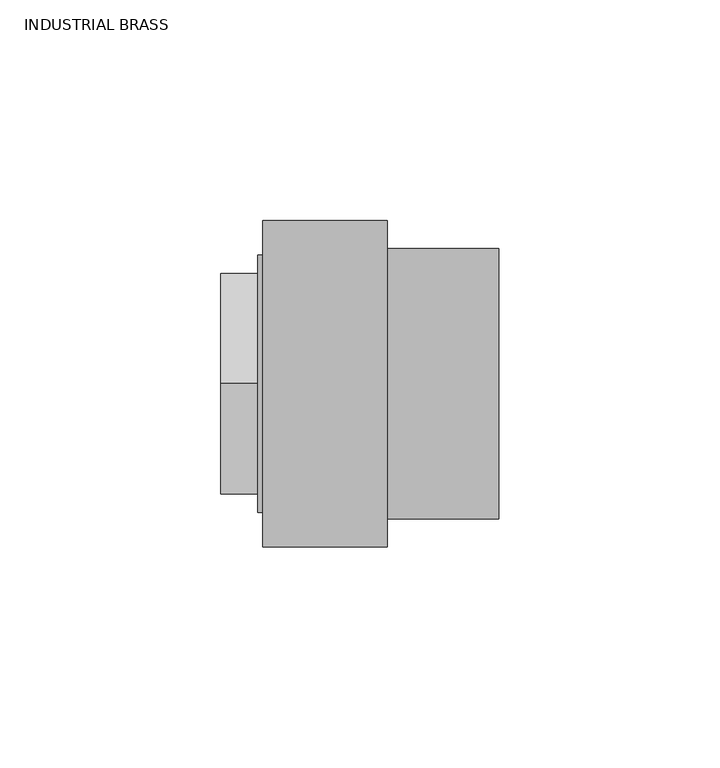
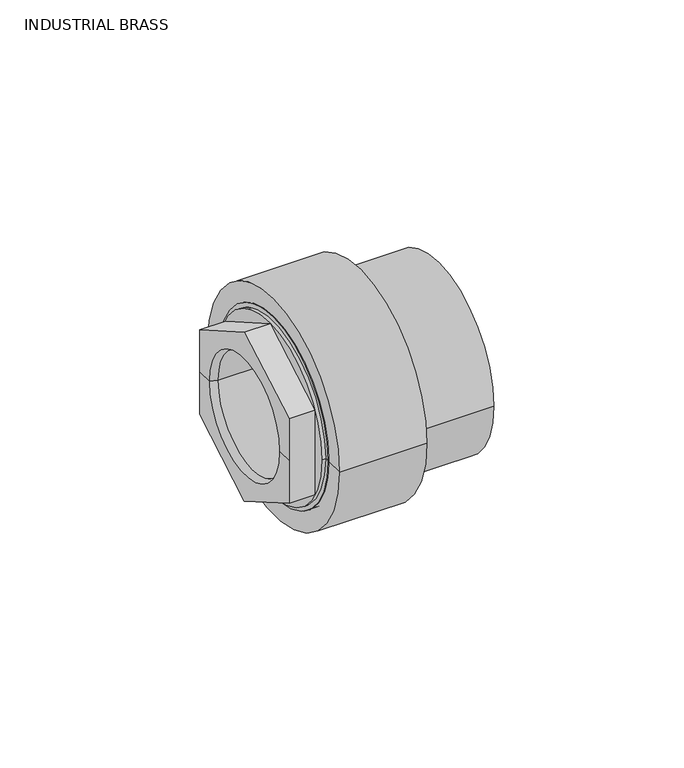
"""IFC4 building model written with IfcOpenShell, lengths in millimetres: valve geometry, Aquatherm - Transition Piece - F HEX : INDUSTRIAL BRASS."""

import ifcopenshell
import ifcopenshell.guid

model = None  # the IFC model being written
_history = None  # IfcOwnerHistory: only IFC2X3 demands one
_inside = {}  # id of a spatial element -> (the spatial element, [elements in it])
_under = {}  # id of a project, library or spatial element -> (it, [spatial elements below it])
_declared = {}  # id of a project -> (the project, [libraries it declares])
_typed = {}  # id of a type object -> (the type object, [elements of that type])
_made_of = {}  # id of a material, layer set ... -> (it, [elements and type objects made of it])


def new_model(schema):
    """Start an empty IFC model of exactly this schema.

    Asked for "IFC4X3", IfcOpenShell would pick the latest addendum, in which some entities
    have other attributes; the version numbers below select the first issue.
    IFC2X3 requires an IfcOwnerHistory on every rooted entity: one is made here for all.
    """
    global model, _history
    if schema == "IFC4X3":
        model = ifcopenshell.file(schema_version=(4, 3, 0, 0))
    else:
        model = ifcopenshell.file(schema=schema)
    _inside.clear()
    _under.clear()
    _declared.clear()
    _typed.clear()
    _made_of.clear()
    _history = None
    if model.schema == "IFC2X3":
        org = make("IfcOrganization", Name="unknown")
        user = make(
            "IfcPersonAndOrganization",
            ThePerson=make("IfcPerson", FamilyName="unknown"),
            TheOrganization=org,
        )
        app = make(
            "IfcApplication",
            ApplicationDeveloper=org,
            Version="unknown",
            ApplicationFullName="unknown",
            ApplicationIdentifier="unknown",
        )
        _history = make(
            "IfcOwnerHistory",
            OwningUser=user,
            OwningApplication=app,
            ChangeAction="ADDED",
            CreationDate=0,
        )
    return model


def make(cls, **values):
    """One entity of the class cls with the attributes given. An attribute that is None is left unset."""
    return model.create_entity(
        cls, **{name: value for name, value in values.items() if value is not None}
    )


def rooted(cls, **values):
    """An entity with a GlobalId (a new one), such as an element, a storey or a relation."""
    return make(cls, GlobalId=ifcopenshell.guid.new(), OwnerHistory=_history, **values)


def si_unit(unit_type, name, prefix=None):
    """IfcSIUnit, for example si_unit("LENGTHUNIT", "METRE", prefix="MILLI")."""
    return make("IfcSIUnit", UnitType=unit_type, Prefix=prefix, Name=name)


def assignment(units):
    """IfcUnitAssignment: the units of a project."""
    return None if units is None else make("IfcUnitAssignment", Units=units)


def point(xyz):
    """IfcCartesianPoint."""
    return None if xyz is None else make("IfcCartesianPoint", Coordinates=xyz)


def direction(xyz):
    """IfcDirection."""
    return None if xyz is None else make("IfcDirection", DirectionRatios=xyz)


def frame(location, z_axis=None, x_axis=None):
    """IfcAxis2Placement3D, a coordinate frame: its origin and axes. An axis left out is left unset."""
    return make(
        "IfcAxis2Placement3D",
        Location=point(location),
        Axis=direction(z_axis),
        RefDirection=direction(x_axis),
    )


def origin():
    """The frame at (0, 0, 0) with its axes left unset."""
    return frame((0.0, 0.0, 0.0))


def place(relative_to, where):
    """IfcLocalPlacement: puts the frame where relative to a parent placement (None: the world)."""
    return make(
        "IfcLocalPlacement", PlacementRelTo=relative_to, RelativePlacement=where
    )


def context(
    kind, dimensions, precision=None, world=None, true_north=None, identifier=None
):
    """IfcGeometricRepresentationContext, for example the 3D "Model" context."""
    return make(
        "IfcGeometricRepresentationContext",
        ContextIdentifier=identifier,
        ContextType=kind,
        CoordinateSpaceDimension=dimensions,
        Precision=precision,
        WorldCoordinateSystem=world,
        TrueNorth=true_north,
    )


def project(units=None, contexts=None):
    """IfcProject with its units and contexts."""
    return rooted(
        "IfcProject",
        Name="project",
        RepresentationContexts=contexts,
        UnitsInContext=assignment(units),
    )


def spatial(cls, under=None, at=None, **own):
    """A site, building, storey or space (cls), placed at a placement, below another one or the project."""
    s = rooted(cls, ObjectPlacement=at, **own)
    if under is not None:
        _under.setdefault(under.id(), (under, []))[1].append(s)
    return s


def polyline(points):
    """IfcPolyline through the points."""
    return make("IfcPolyline", Points=[point(p) for p in points])


def circle_curve(where, radius):
    """IfcCircle in the frame where."""
    return make("IfcCircle", Position=where, Radius=radius)


def shape(context_of_items, identifier, shape_type, items):
    """IfcShapeRepresentation: the items that make up one representation, for example the "Body"."""
    return make(
        "IfcShapeRepresentation",
        ContextOfItems=context_of_items,
        RepresentationIdentifier=identifier,
        RepresentationType=shape_type,
        Items=items,
    )


def source(mapping_origin, context_of_items, identifier, shape_type, items):
    """IfcRepresentationMap: a shape defined once, which mapped items show again and again."""
    return make(
        "IfcRepresentationMap",
        MappingOrigin=mapping_origin,
        MappedRepresentation=shape(context_of_items, identifier, shape_type, items),
    )


def transform(
    local_origin,
    x_axis=None,
    y_axis=None,
    z_axis=None,
    scale=None,
    scale2=None,
    scale3=None,
    uniform=True,
):
    """IfcCartesianTransformationOperator3D, or its non-uniform kind. x_axis, y_axis, z_axis: its Axis1, 2, 3."""
    if uniform:
        return make(
            "IfcCartesianTransformationOperator3D",
            Axis1=direction(x_axis),
            Axis2=direction(y_axis),
            LocalOrigin=point(local_origin),
            Scale=scale,
            Axis3=direction(z_axis),
        )
    return make(
        "IfcCartesianTransformationOperator3DnonUniform",
        Axis1=direction(x_axis),
        Axis2=direction(y_axis),
        LocalOrigin=point(local_origin),
        Scale=scale,
        Axis3=direction(z_axis),
        Scale2=scale2,
        Scale3=scale3,
    )


def mapped(mapping_source, mapping_target):
    """IfcMappedItem: shows the shape of a source again, moved by a transform."""
    return make(
        "IfcMappedItem", MappingSource=mapping_source, MappingTarget=mapping_target
    )


def made_of(thing, what):
    """Note that an element or type object is made of a material, layer set ...; save() writes the relation."""
    if what is not None:
        _made_of.setdefault(what.id(), (what, []))[1].append(thing)
    return thing


def element(
    cls,
    number,
    at=None,
    inside=None,
    cuts=None,
    type_object=None,
    material=None,
    context=None,
    identifier="Body",
    shape_type=None,
    held_by="IfcProductDefinitionShape",
    body=None,
    shapes=None,
    **own,
):
    """One element of the class cls, such as IfcWall. Its Tag is "e" and its number.

    at: its placement. inside: the storey or other place that contains it. cuts: it is an
    opening in that element (IfcRelVoidsElement). A single representation is given by context,
    identifier, shape_type and body (its items); several are given by shapes. held_by: the class
    of the entity that holds the representations. save() writes the other relations.
    """
    e = rooted(cls, Tag="e%d" % number, ObjectPlacement=at, **own)
    if body is not None:
        shapes = [shape(context, identifier, shape_type, body)]
    if shapes is not None:
        e.Representation = make(held_by, Representations=shapes)
    if inside is not None:
        _inside.setdefault(inside.id(), (inside, []))[1].append(e)
    if cuts is not None:
        rooted(
            "IfcRelVoidsElement", RelatingBuildingElement=cuts, RelatedOpeningElement=e
        )
    if type_object is not None:
        _typed.setdefault(type_object.id(), (type_object, []))[1].append(e)
    return made_of(e, material)


def aggregate(whole, parts):
    """IfcRelAggregates: a whole, such as a stair, and the parts it consists of."""
    return rooted("IfcRelAggregates", RelatingObject=whole, RelatedObjects=parts)


def save(model, path):
    """Write the relations noted so far, then the file.

    IfcRelAggregates (storeys below a building ...), IfcRelContainedInSpatialStructure (elements
    in a storey), IfcRelDefinesByType, IfcRelAssociatesMaterial and IfcRelDeclares: one each for
    every whole, place, type object, material and project.
    """
    for whole, parts in _under.values():
        aggregate(whole, parts)
    for where, things in _inside.values():
        rooted(
            "IfcRelContainedInSpatialStructure",
            RelatedElements=things,
            RelatingStructure=where,
        )
    for kind, things in _typed.values():
        rooted("IfcRelDefinesByType", RelatedObjects=things, RelatingType=kind)
    for what, things in _made_of.values():
        rooted("IfcRelAssociatesMaterial", RelatedObjects=things, RelatingMaterial=what)
    for by, libraries in _declared.values():
        rooted("IfcRelDeclares", RelatingContext=by, RelatedDefinitions=libraries)
    model.write(path)


def plane_surface(at):
    """IfcPlane: the flat surface through the origin of the frame at, square to its z axis."""
    return make("IfcPlane", Position=at)


def cylinder_surface(at, radius):
    """IfcCylindricalSurface: all points at the distance radius from the z axis of the frame at."""
    return make("IfcCylindricalSurface", Position=at, Radius=radius)


def revolved_surface(curve, axis_point, axis_direction):
    """IfcSurfaceOfRevolution: the curve turned about the line through axis_point along axis_direction."""
    return make(
        "IfcSurfaceOfRevolution",
        SweptCurve=make("IfcArbitraryOpenProfileDef", ProfileType="CURVE", Curve=curve),
        AxisPosition=make("IfcAxis1Placement", Location=point(axis_point), Axis=direction(axis_direction)),
    )


def advanced_brep(points, edges, surfaces, faces):
    """IfcAdvancedBrep: a solid bounded by faces that lie on surfaces and meet in shared edges.

    An edge is (start, end): straight between two places in points (the first is 0);
    or (start, end, curve); or (start, end, curve, False) where it runs against its curve.
    A face is (place in surfaces, loops), or (place, loops, False) where it looks against
    its surface's normal. A loop lists edges by number (the first is 1), with a minus sign
    where the edge is run from its end to its start. The first loop is the outer one.
    """
    corners = [point(p) for p in points]
    vertices = [make("IfcVertexPoint", VertexGeometry=c) for c in corners]
    made = []
    for start, end, *more in edges:
        made.append(
            make(
                "IfcEdgeCurve",
                EdgeStart=vertices[start],
                EdgeEnd=vertices[end],
                EdgeGeometry=more[0] if more else make("IfcPolyline", Points=[corners[start], corners[end]]),
                SameSense=more[1] if len(more) > 1 else True,
            )
        )
    hull = []
    for where, loops, *sense in faces:
        bounds = []
        for j, loop in enumerate(loops):
            ring = [make("IfcOrientedEdge", EdgeElement=made[abs(k) - 1], Orientation=k > 0) for k in loop]
            bounds.append(
                make(
                    "IfcFaceOuterBound" if j == 0 else "IfcFaceBound",
                    Bound=make("IfcEdgeLoop", EdgeList=ring),
                    Orientation=True,
                )
            )
        hull.append(make("IfcAdvancedFace", Bounds=bounds, FaceSurface=surfaces[where], SameSense=sense[0] if sense else True))
    return make("IfcAdvancedBrep", Outer=make("IfcClosedShell", CfsFaces=hull))


def industrial_brass_9a24e325(model_context):
    return source(origin(), model_context, "Body", "AdvancedBrep", [
        advanced_brep(
        [(8.73125, -19.05, 0.0), (8.73125, 19.05, 0.0), (-6.9453125, 19.05, 0.0), (-6.9453125, -19.05, 0.0), (8.73125, -19.84375, 0.0), (8.73125, 19.84375, 0.0), (11.90625, -19.84375, 0.0), (11.90625, 19.84375, 0.0), (11.90625, -15.875, 0.0), (11.90625, 15.875, 0.0), (15.08125, -15.875, 0.0), (15.08125, 15.875, 0.0), (15.08125, -30.607, 0.0), (15.08125, 30.607, 0.0), (0.0, -30.607, 0.0), (0.0, 30.607, 0.0), (-9.525, -19.84375, 0.0), (-9.525, 19.84375, 0.0), (-9.525, 25.019, 0.0), (-9.525, 25.019, -14.4447264), (-9.525, 0.0, -28.8894528), (-9.525, -25.019, -14.4447264), (-9.525, -25.019, 0.0), (-9.525, -25.019, 14.4447264), (-9.525, 0.0, 28.8894528), (-9.525, 25.019, 14.4447264), (0.0, -29.21, 0.0), (0.0, 29.21, 0.0), (-1.190625, -29.21, 0.0), (-1.190625, 29.21, 0.0), (-1.190625, 0.0, -28.8894528), (-1.190625, 25.019, -14.4447264), (-1.190625, 25.019, 14.4447264), (-1.190625, 0.0, 28.8894528), (-1.190625, -25.019, 14.4447264), (-1.190625, -25.019, -14.4447264)],
        [
            (0, 1, circle_curve(frame((8.73125, 0.0, 0.0), z_axis=(1.0, 0.0, 0.0), x_axis=(0.0, 1.0, 0.0)), 19.05)),
            (1, 2),
            (2, 3, circle_curve(frame((-6.9453125, 0.0, 0.0), z_axis=(-1.0, 0.0, 0.0), x_axis=(0.0, 1.0, 0.0)), 19.05)),
            (3, 0),
            (1, 0, circle_curve(frame((8.73125, 0.0, 0.0), z_axis=(1.0, 0.0, 0.0), x_axis=(0.0, 1.0, 0.0)), 19.05)),
            (3, 2, circle_curve(frame((-6.9453125, 0.0, 0.0), z_axis=(-1.0, 0.0, 0.0), x_axis=(0.0, 1.0, 0.0)), 19.05)),
            (0, 4),
            (4, 5, circle_curve(frame((8.73125, 0.0, 0.0), z_axis=(1.0, 0.0, 0.0), x_axis=(0.0, 1.0, 0.0)), 19.84375)),
            (5, 1),
            (5, 4, circle_curve(frame((8.73125, 0.0, 0.0), z_axis=(1.0, 0.0, 0.0), x_axis=(0.0, 1.0, 0.0)), 19.84375)),
            (4, 6),
            (6, 7, circle_curve(frame((11.90625, 0.0, 0.0), z_axis=(1.0, 0.0, 0.0), x_axis=(0.0, 1.0, 0.0)), 19.84375)),
            (7, 5),
            (7, 6, circle_curve(frame((11.90625, 0.0, 0.0), z_axis=(1.0, 0.0, 0.0), x_axis=(0.0, 1.0, 0.0)), 19.84375)),
            (6, 8),
            (8, 9, circle_curve(frame((11.90625, 0.0, 0.0), z_axis=(1.0, 0.0, 0.0), x_axis=(0.0, 1.0, 0.0)), 15.875)),
            (9, 7),
            (9, 8, circle_curve(frame((11.90625, 0.0, 0.0), z_axis=(1.0, 0.0, 0.0), x_axis=(0.0, 1.0, 0.0)), 15.875)),
            (8, 10),
            (10, 11, circle_curve(frame((15.08125, 0.0, 0.0), z_axis=(1.0, 0.0, 0.0), x_axis=(0.0, 1.0, 0.0)), 15.875)),
            (11, 9),
            (11, 10, circle_curve(frame((15.08125, 0.0, 0.0), z_axis=(1.0, 0.0, 0.0), x_axis=(0.0, 1.0, 0.0)), 15.875)),
            (10, 12),
            (12, 13, circle_curve(frame((15.08125, 0.0, 0.0), z_axis=(1.0, 0.0, 0.0), x_axis=(0.0, 1.0, 0.0)), 30.607)),
            (13, 11),
            (13, 12, circle_curve(frame((15.08125, 0.0, 0.0), z_axis=(1.0, 0.0, 0.0), x_axis=(0.0, 1.0, 0.0)), 30.607)),
            (12, 14),
            (14, 15, circle_curve(frame((0.0, 0.0, 0.0), z_axis=(1.0, 0.0, 0.0), x_axis=(0.0, 1.0, 0.0)), 30.607)),
            (15, 13),
            (15, 14, circle_curve(frame((0.0, 0.0, 0.0), z_axis=(1.0, 0.0, 0.0), x_axis=(0.0, 1.0, 0.0)), 30.607)),
            (16, 17, circle_curve(frame((-9.525, 0.0, 0.0), z_axis=(1.0, 0.0, 0.0), x_axis=(0.0, 1.0, 0.0)), 19.84375)),
            (17, 18),
            (18, 19),
            (19, 20),
            (20, 21),
            (21, 22),
            (22, 16),
            (17, 16, circle_curve(frame((-9.525, 0.0, 0.0), z_axis=(1.0, 0.0, 0.0), x_axis=(0.0, 1.0, 0.0)), 19.84375)),
            (22, 23),
            (23, 24),
            (24, 25),
            (25, 18),
            (2, 17),
            (16, 3),
            (14, 26),
            (26, 27, circle_curve(frame((0.0, 0.0, 0.0), z_axis=(1.0, 0.0, 0.0), x_axis=(0.0, 1.0, 0.0)), 29.21)),
            (27, 15),
            (27, 26, circle_curve(frame((0.0, 0.0, 0.0), z_axis=(1.0, 0.0, 0.0), x_axis=(0.0, 1.0, 0.0)), 29.21)),
            (26, 28),
            (28, 29, circle_curve(frame((-1.190625, 0.0, 0.0), z_axis=(1.0, 0.0, 0.0), x_axis=(0.0, 1.0, 0.0)), 29.21)),
            (29, 27),
            (29, 28, circle_curve(frame((-1.190625, 0.0, 0.0), z_axis=(1.0, 0.0, 0.0), x_axis=(0.0, 1.0, 0.0)), 29.21)),
            (30, 31),
            (31, 32),
            (32, 33),
            (33, 34),
            (34, 35),
            (35, 30),
            (35, 21),
            (20, 30),
            (34, 23),
            (33, 24),
            (32, 25),
            (31, 19),
        ],
        [
            revolved_surface(polyline([(-6.9453125, 19.05, 0.0), (8.731250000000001, 19.05, 0.0)]), (-11.3582251, 0.0, 0.0), (-1.0, 0.0, 0.0)),
            plane_surface(frame((8.73125, 0.0, 0.0), z_axis=(1.0, 0.0, 0.0), x_axis=(0.0, 1.0, 0.0))),
            revolved_surface(polyline([(8.731250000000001, 19.84375, 0.0), (11.906249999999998, 19.84375, 0.0)]), (-11.3582251, 0.0, 0.0), (-1.0, 0.0, 0.0)),
            plane_surface(frame((11.90625, 0.0, 0.0), z_axis=(-1.0, 0.0, 0.0), x_axis=(0.0, 1.0, 0.0))),
            revolved_surface(polyline([(11.906249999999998, 15.875, 0.0), (15.081250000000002, 15.875, 0.0)]), (-11.3582251, 0.0, 0.0), (-1.0, 0.0, 0.0)),
            plane_surface(frame((15.08125, 0.0, 0.0), z_axis=(1.0, 0.0, 0.0), x_axis=(0.0, 1.0, 0.0))),
            cylinder_surface(frame((-11.3582251, 0.0, 0.0), z_axis=(-1.0, 0.0, 0.0), x_axis=(0.0, 1.0, 0.0)), 30.607),
            plane_surface(frame((-9.525, 0.0, 0.0), z_axis=(-1.0, 0.0, 0.0), x_axis=(0.0, 1.0, 0.0))),
            revolved_surface(polyline([(-9.525, 19.84375, 0.0), (-6.9453125, 19.05, 0.0)]), (-11.3582251, 0.0, 0.0), (-1.0, 0.0, 0.0)),
            plane_surface(frame((0.0, 0.0, 0.0), z_axis=(-1.0, 0.0, 0.0), x_axis=(0.0, 1.0, 0.0))),
            cylinder_surface(frame((-11.3582251, 0.0, 0.0), z_axis=(-1.0, 0.0, 0.0), x_axis=(0.0, 1.0, 0.0)), 29.21),
            plane_surface(frame((-1.190625, -25.019, -14.4447264), z_axis=(-1.0, 0.0, 0.0), x_axis=(0.0, -0.8660254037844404, 0.499999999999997))),
            plane_surface(frame((-1.190625, 0.0, -28.8894528), z_axis=(0.0, -0.499999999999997, -0.8660254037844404), x_axis=(-1.0, 0.0, 0.0))),
            plane_surface(frame((-1.190625, -25.019, -14.4447264), z_axis=(0.0, -1.0, 0.0), x_axis=(-1.0, 0.0, 0.0))),
            plane_surface(frame((-1.190625, -25.019, 14.4447264), z_axis=(0.0, -0.5000000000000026, 0.8660254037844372), x_axis=(-1.0, 0.0, 0.0))),
            plane_surface(frame((-1.190625, 0.0, 28.8894528), z_axis=(0.0, 0.49999999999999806, 0.8660254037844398), x_axis=(-1.0, 0.0, 0.0))),
            plane_surface(frame((-1.190625, 25.019, 14.4447264), z_axis=(0.0, 1.0, 0.0), x_axis=(-1.0, 0.0, 0.0))),
            plane_surface(frame((-1.190625, 25.019, -14.4447264), z_axis=(0.0, 0.5000000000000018, -0.8660254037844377), x_axis=(-1.0, 0.0, 0.0))),
        ],
        [
            (0, [[1, 2, 3, 4]]),
            (0, [[-2, 5, -4, 6]]),
            (1, [[-1, 7, 8, 9]]),
            (1, [[-5, -9, 10, -7]]),
            (2, [[-8, 11, 12, 13]]),
            (2, [[-10, -13, 14, -11]]),
            (3, [[-12, 15, 16, 17]]),
            (3, [[-14, -17, 18, -15]]),
            (4, [[-16, 19, 20, 21]]),
            (4, [[-18, -21, 22, -19]]),
            (5, [[-20, 23, 24, 25]]),
            (5, [[-22, -25, 26, -23]]),
            (6, [[-24, 27, 28, 29]]),
            (6, [[-26, -29, 30, -27]]),
            (7, [[31, 32, 33, 34, 35, 36, 37]]),
            (7, [[38, -37, 39, 40, 41, 42, -32]]),
            (8, [[-3, 43, -31, 44]]),
            (8, [[-6, -44, -38, -43]]),
            (9, [[-28, 45, 46, 47]]),
            (9, [[-30, -47, 48, -45]]),
            (10, [[-46, 49, 50, 51]]),
            (10, [[-48, -51, 52, -49]]),
            (11, [[-50, -52], [53, 54, 55, 56, 57, 58]]),
            (12, [[-58, 59, -35, 60]]),
            (13, [[-57, 61, -39, -36, -59]]),
            (14, [[-56, 62, -40, -61]]),
            (15, [[-55, 63, -41, -62]]),
            (16, [[-54, 64, -33, -42, -63]]),
            (17, [[-53, -60, -34, -64]]),
        ],
    ),
        advanced_brep(
        [(0.0, -36.957, 0.0), (0.0, 36.957, 0.0), (28.194, 36.957, 0.0), (28.194, -36.957, 0.0), (0.0, -30.607, 0.0), (0.0, 30.607, 0.0), (15.08125, -30.607, 0.0), (15.08125, 30.607, 0.0), (15.08125, -15.875, 0.0), (15.08125, 15.875, 0.0), (33.147, -15.875, 0.0), (33.147, 15.875, 0.0), (33.147, -19.939, 0.0), (33.147, 19.939, 0.0), (53.467, -19.939, 0.0), (53.467, 19.939, 0.0), (53.467, -30.607, 0.0), (53.467, 30.607, 0.0), (28.194, -30.607, 0.0), (28.194, 30.607, 0.0)],
        [
            (0, 1, circle_curve(frame((0.0, 0.0, 0.0), z_axis=(1.0, 0.0, 0.0), x_axis=(0.0, 1.0, 0.0)), 36.957)),
            (1, 2),
            (2, 3, circle_curve(frame((28.194, 0.0, 0.0), z_axis=(-1.0, 0.0, 0.0), x_axis=(0.0, 1.0, 0.0)), 36.957)),
            (3, 0),
            (1, 0, circle_curve(frame((0.0, 0.0, 0.0), z_axis=(1.0, 0.0, 0.0), x_axis=(0.0, 1.0, 0.0)), 36.957)),
            (3, 2, circle_curve(frame((28.194, 0.0, 0.0), z_axis=(-1.0, 0.0, 0.0), x_axis=(0.0, 1.0, 0.0)), 36.957)),
            (4, 5, circle_curve(frame((0.0, 0.0, 0.0), z_axis=(1.0, 0.0, 0.0), x_axis=(0.0, 1.0, 0.0)), 30.607)),
            (5, 1),
            (0, 4),
            (5, 4, circle_curve(frame((0.0, 0.0, 0.0), z_axis=(1.0, 0.0, 0.0), x_axis=(0.0, 1.0, 0.0)), 30.607)),
            (6, 7, circle_curve(frame((15.08125, 0.0, 0.0), z_axis=(1.0, 0.0, 0.0), x_axis=(0.0, 1.0, 0.0)), 30.607)),
            (7, 5),
            (4, 6),
            (7, 6, circle_curve(frame((15.08125, 0.0, 0.0), z_axis=(1.0, 0.0, 0.0), x_axis=(0.0, 1.0, 0.0)), 30.607)),
            (8, 9, circle_curve(frame((15.08125, 0.0, 0.0), z_axis=(1.0, 0.0, 0.0), x_axis=(0.0, 1.0, 0.0)), 15.875)),
            (9, 7),
            (6, 8),
            (9, 8, circle_curve(frame((15.08125, 0.0, 0.0), z_axis=(1.0, 0.0, 0.0), x_axis=(0.0, 1.0, 0.0)), 15.875)),
            (10, 11, circle_curve(frame((33.147, 0.0, 0.0), z_axis=(1.0, 0.0, 0.0), x_axis=(0.0, 1.0, 0.0)), 15.875)),
            (11, 9),
            (8, 10),
            (11, 10, circle_curve(frame((33.147, 0.0, 0.0), z_axis=(1.0, 0.0, 0.0), x_axis=(0.0, 1.0, 0.0)), 15.875)),
            (12, 13, circle_curve(frame((33.147, 0.0, 0.0), z_axis=(1.0, 0.0, 0.0), x_axis=(0.0, 1.0, 0.0)), 19.939)),
            (13, 11),
            (10, 12),
            (13, 12, circle_curve(frame((33.147, 0.0, 0.0), z_axis=(1.0, 0.0, 0.0), x_axis=(0.0, 1.0, 0.0)), 19.939)),
            (14, 15, circle_curve(frame((53.467, 0.0, 0.0), z_axis=(1.0, 0.0, 0.0), x_axis=(0.0, 1.0, 0.0)), 19.939)),
            (15, 13),
            (12, 14),
            (15, 14, circle_curve(frame((53.467, 0.0, 0.0), z_axis=(1.0, 0.0, 0.0), x_axis=(0.0, 1.0, 0.0)), 19.939)),
            (16, 17, circle_curve(frame((53.467, 0.0, 0.0), z_axis=(1.0, 0.0, 0.0), x_axis=(0.0, 1.0, 0.0)), 30.607)),
            (17, 15),
            (14, 16),
            (17, 16, circle_curve(frame((53.467, 0.0, 0.0), z_axis=(1.0, 0.0, 0.0), x_axis=(0.0, 1.0, 0.0)), 30.607)),
            (18, 19, circle_curve(frame((28.194, 0.0, 0.0), z_axis=(1.0, 0.0, 0.0), x_axis=(0.0, 1.0, 0.0)), 30.607)),
            (19, 17),
            (16, 18),
            (19, 18, circle_curve(frame((28.194, 0.0, 0.0), z_axis=(1.0, 0.0, 0.0), x_axis=(0.0, 1.0, 0.0)), 30.607)),
            (2, 19),
            (18, 3),
        ],
        [
            cylinder_surface(frame((-17.6281162, 0.0, 0.0), z_axis=(-1.0, 0.0, 0.0), x_axis=(0.0, 1.0, 0.0)), 36.957),
            plane_surface(frame((0.0, 0.0, 0.0), z_axis=(-1.0, 0.0, 0.0), x_axis=(0.0, 1.0, 0.0))),
            revolved_surface(polyline([(0.0, 30.607, 0.0), (15.081250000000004, 30.607, 0.0)]), (-17.6281162, 0.0, 0.0), (-1.0, 0.0, 0.0)),
            plane_surface(frame((15.08125, 0.0, 0.0), z_axis=(-1.0, 0.0, 0.0), x_axis=(0.0, 1.0, 0.0))),
            revolved_surface(polyline([(15.081250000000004, 15.875, 0.0), (33.147, 15.875, 0.0)]), (-17.6281162, 0.0, 0.0), (-1.0, 0.0, 0.0)),
            plane_surface(frame((33.147, 0.0, 0.0), z_axis=(1.0, 0.0, 0.0), x_axis=(0.0, 1.0, 0.0))),
            revolved_surface(polyline([(33.147, 19.939, 0.0), (53.467000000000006, 19.939, 0.0)]), (-17.6281162, 0.0, 0.0), (-1.0, 0.0, 0.0)),
            plane_surface(frame((53.467, 0.0, 0.0), z_axis=(1.0, 0.0, 0.0), x_axis=(0.0, 1.0, 0.0))),
            cylinder_surface(frame((-17.6281162, 0.0, 0.0), z_axis=(-1.0, 0.0, 0.0), x_axis=(0.0, 1.0, 0.0)), 30.607),
            plane_surface(frame((28.194, 0.0, 0.0), z_axis=(1.0, 0.0, 0.0), x_axis=(0.0, 1.0, 0.0))),
        ],
        [
            (0, [[1, 2, 3, 4]]),
            (0, [[5, -4, 6, -2]]),
            (1, [[7, 8, -1, 9]]),
            (1, [[10, -9, -5, -8]]),
            (2, [[11, 12, -7, 13]]),
            (2, [[14, -13, -10, -12]]),
            (3, [[15, 16, -11, 17]]),
            (3, [[18, -17, -14, -16]]),
            (4, [[19, 20, -15, 21]]),
            (4, [[22, -21, -18, -20]]),
            (5, [[23, 24, -19, 25]]),
            (5, [[26, -25, -22, -24]]),
            (6, [[27, 28, -23, 29]]),
            (6, [[30, -29, -26, -28]]),
            (7, [[31, 32, -27, 33]]),
            (7, [[34, -33, -30, -32]]),
            (8, [[35, 36, -31, 37]]),
            (8, [[38, -37, -34, -36]]),
            (9, [[-3, 39, -35, 40]]),
            (9, [[-6, -40, -38, -39]]),
        ],
    ),
    ])


if __name__ == "__main__":
    model = new_model("IFC4")
    model_context = context("Model", 3, world=origin())
    ifc_project = project(units=[si_unit("LENGTHUNIT", "METRE", prefix="MILLI")], contexts=[model_context])
    site = spatial("IfcSite", under=ifc_project)
    building = spatial("IfcBuilding", under=site)
    placement = place(None, origin())
    industrial_brass_shape = industrial_brass_9a24e325(model_context)
    element("IfcValve", 1, ObjectType="Aquatherm - Transition Piece - F HEX : INDUSTRIAL BRASS", at=placement, inside=building, context=model_context, shape_type="MappedRepresentation", body=[
        mapped(industrial_brass_shape, transform((0.0, 0.0, 0.0), x_axis=(1.0, 0.0, 0.0), y_axis=(0.0, 1.0, 0.0), z_axis=(0.0, 0.0, 1.0))),
    ])
    save(model, "model.ifc")
